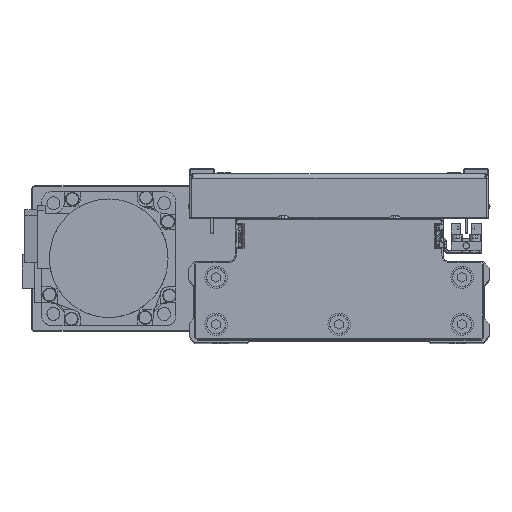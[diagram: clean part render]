
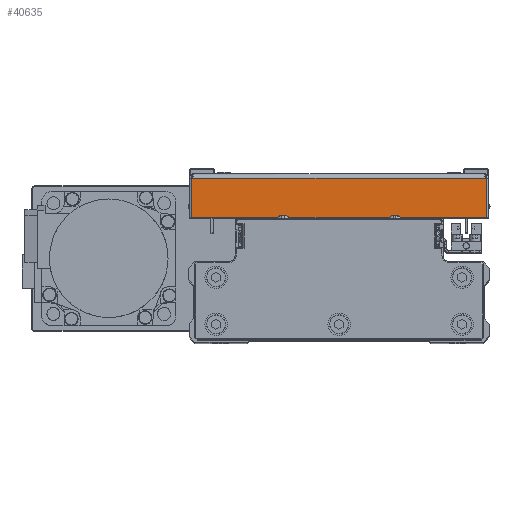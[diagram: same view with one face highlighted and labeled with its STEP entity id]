
A CAD part, top view. The second image highlights one B-rep face of the part: STEP entity #40635.
In plain terms, the highlighted planar face has unit normal (0, 0, 1) as drawn and (1, 0, 0) by its records, which use the part's own axes.
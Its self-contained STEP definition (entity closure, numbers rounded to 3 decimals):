
#1552 = DIRECTION ( 'NONE',  ( 0., 1., 0. ) ) ;
#2110 = CARTESIAN_POINT ( 'NONE',  ( 100., 1., 65.929 ) ) ;
#3119 = LINE ( 'NONE', #16571, #34862 ) ;
#3448 = ORIENTED_EDGE ( 'NONE', *, *, #7139, .F. ) ;
#4116 = EDGE_LOOP ( 'NONE', ( #43129, #38800, #29239, #3448 ) ) ;
#5303 = EDGE_CURVE ( 'NONE', #20671, #21687, #41789, .T. ) ;
#7139 = EDGE_CURVE ( 'NONE', #20417, #23803, #18294, .T. ) ;
#7890 = CARTESIAN_POINT ( 'NONE',  ( 100., 0., 0. ) ) ;
#9320 = EDGE_CURVE ( 'NONE', #21687, #23803, #3119, .T. ) ;
#11543 = DIRECTION ( 'NONE',  ( 0., 0., 1. ) ) ;
#11570 = CARTESIAN_POINT ( 'NONE',  ( 100., 0., -65.929 ) ) ;
#14061 = CARTESIAN_POINT ( 'NONE',  ( 100., 18.5, 65.929 ) ) ;
#16571 = CARTESIAN_POINT ( 'NONE',  ( 100., 18.5, 0. ) ) ;
#17991 = EDGE_CURVE ( 'NONE', #20671, #20417, #28292, .T. ) ;
#18294 = LINE ( 'NONE', #31755, #29961 ) ;
#20417 = VERTEX_POINT ( 'NONE', #2110 ) ;
#20671 = VERTEX_POINT ( 'NONE', #36795 ) ;
#21324 = DIRECTION ( 'NONE',  ( -1., 0., 0. ) ) ;
#21687 = VERTEX_POINT ( 'NONE', #23438 ) ;
#23438 = CARTESIAN_POINT ( 'NONE',  ( 100., 18.5, -65.929 ) ) ;
#23803 = VERTEX_POINT ( 'NONE', #14061 ) ;
#24646 = FACE_OUTER_BOUND ( 'NONE', #4116, .T. ) ;
#25015 = DIRECTION ( 'NONE',  ( 0., 1., 0. ) ) ;
#28253 = VECTOR ( 'NONE', #11543, 1000. ) ;
#28292 = LINE ( 'NONE', #41759, #28253 ) ;
#28972 = AXIS2_PLACEMENT_3D ( 'NONE', #7890, #21324, #34808 ) ;
#29239 = ORIENTED_EDGE ( 'NONE', *, *, #9320, .T. ) ;
#29961 = VECTOR ( 'NONE', #1552, 1000. ) ;
#30019 = DIRECTION ( 'NONE',  ( 0., 0., 1. ) ) ;
#30653 = VECTOR ( 'NONE', #25015, 1000. ) ;
#31755 = CARTESIAN_POINT ( 'NONE',  ( 100., 0., 65.929 ) ) ;
#34808 = DIRECTION ( 'NONE',  ( 0., -1., 0. ) ) ;
#34862 = VECTOR ( 'NONE', #30019, 1000. ) ;
#36795 = CARTESIAN_POINT ( 'NONE',  ( 100., 1., -65.929 ) ) ;
#38114 = PLANE ( 'NONE',  #28972 ) ;
#38800 = ORIENTED_EDGE ( 'NONE', *, *, #5303, .T. ) ;
#40635 = ADVANCED_FACE ( 'NONE', ( #24646 ), #38114, .F. ) ;
#41759 = CARTESIAN_POINT ( 'NONE',  ( 100., 1., 67. ) ) ;
#41789 = LINE ( 'NONE', #11570, #30653 ) ;
#43129 = ORIENTED_EDGE ( 'NONE', *, *, #17991, .F. ) ;
